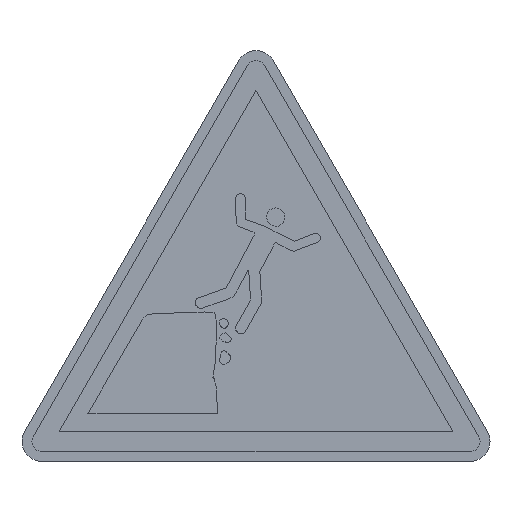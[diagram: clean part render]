
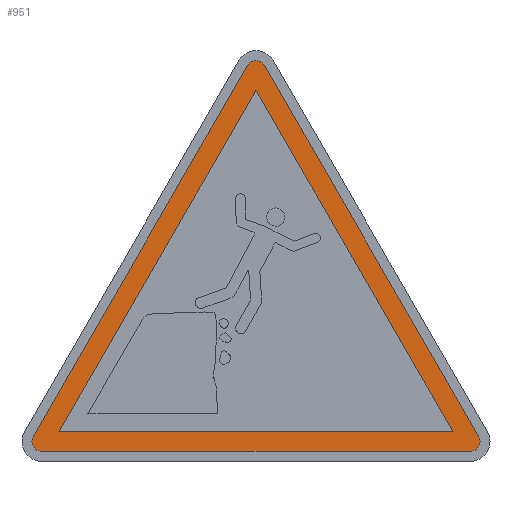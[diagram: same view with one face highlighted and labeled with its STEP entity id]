
A CAD part, top view. The second image highlights one B-rep face of the part: STEP entity #951.
In plain terms, the highlighted planar face has unit normal (0, 0, 1).
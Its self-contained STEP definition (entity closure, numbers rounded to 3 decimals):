
#17 = EDGE_CURVE ( 'NONE', #4892, #2384, #2519, .T. ) ;
#30 = CIRCLE ( 'NONE', #301, 1. ) ;
#113 = ORIENTED_EDGE ( 'NONE', *, *, #2850, .F. ) ;
#161 = VERTEX_POINT ( 'NONE', #5000 ) ;
#301 = AXIS2_PLACEMENT_3D ( 'NONE', #1368, #1045, #2253 ) ;
#304 = CARTESIAN_POINT ( 'NONE',  ( 22.402, 2.5, 0.22 ) ) ;
#373 = CARTESIAN_POINT ( 'NONE',  ( -0.866, 39.801, 0.22 ) ) ;
#423 = LINE ( 'NONE', #373, #1034 ) ;
#446 = EDGE_CURVE ( 'NONE', #2110, #3950, #2453, .T. ) ;
#854 = AXIS2_PLACEMENT_3D ( 'NONE', #3190, #4425, #4026 ) ;
#888 = EDGE_CURVE ( 'NONE', #2384, #2166, #3691, .T. ) ;
#941 = EDGE_LOOP ( 'NONE', ( #2548, #5354, #2375, #3504, #2248, #3169 ) ) ;
#951 = ADVANCED_FACE ( 'NONE', ( #3320, #2780 ), #4029, .T. ) ;
#1026 = EDGE_CURVE ( 'NONE', #5061, #4892, #423, .T. ) ;
#1034 = VECTOR ( 'NONE', #3342, 1000. ) ;
#1041 = EDGE_LOOP ( 'NONE', ( #1096, #2632, #113 ) ) ;
#1045 = DIRECTION ( 'NONE',  ( 0., 0., 1. ) ) ;
#1096 = ORIENTED_EDGE ( 'NONE', *, *, #1413, .F. ) ;
#1117 = CARTESIAN_POINT ( 'NONE',  ( -21.536, 1., 0.22 ) ) ;
#1121 = CARTESIAN_POINT ( 'NONE',  ( 22.402, 2.5, 0.22 ) ) ;
#1141 = CARTESIAN_POINT ( 'NONE',  ( 0., 39.301, 0.22 ) ) ;
#1195 = DIRECTION ( 'NONE',  ( 1., 0., 0. ) ) ;
#1368 = CARTESIAN_POINT ( 'NONE',  ( 21.536, 2., 0.22 ) ) ;
#1413 = EDGE_CURVE ( 'NONE', #3950, #161, #2882, .T. ) ;
#1625 = CARTESIAN_POINT ( 'NONE',  ( 19.804, 3., 0.22 ) ) ;
#1640 = CARTESIAN_POINT ( 'NONE',  ( 0., 37.301, 0.22 ) ) ;
#2041 = DIRECTION ( 'NONE',  ( 0., 0., 1. ) ) ;
#2073 = CARTESIAN_POINT ( 'NONE',  ( -22.402, 2.5, 0.22 ) ) ;
#2110 = VERTEX_POINT ( 'NONE', #1640 ) ;
#2166 = VERTEX_POINT ( 'NONE', #3692 ) ;
#2212 = CIRCLE ( 'NONE', #4718, 1. ) ;
#2223 = VERTEX_POINT ( 'NONE', #304 ) ;
#2240 = DIRECTION ( 'NONE',  ( 0., 0., 1. ) ) ;
#2248 = ORIENTED_EDGE ( 'NONE', *, *, #3937, .T. ) ;
#2253 = DIRECTION ( 'NONE',  ( 1., 0., 0. ) ) ;
#2278 = VERTEX_POINT ( 'NONE', #5001 ) ;
#2280 = CARTESIAN_POINT ( 'NONE',  ( -19.804, 3., 0.22 ) ) ;
#2354 = LINE ( 'NONE', #1121, #5233 ) ;
#2375 = ORIENTED_EDGE ( 'NONE', *, *, #17, .T. ) ;
#2377 = CARTESIAN_POINT ( 'NONE',  ( -0.866, 39.801, 0.22 ) ) ;
#2384 = VERTEX_POINT ( 'NONE', #1117 ) ;
#2453 = LINE ( 'NONE', #4450, #3986 ) ;
#2519 = CIRCLE ( 'NONE', #854, 1. ) ;
#2538 = VECTOR ( 'NONE', #4964, 1000. ) ;
#2548 = ORIENTED_EDGE ( 'NONE', *, *, #3245, .T. ) ;
#2632 = ORIENTED_EDGE ( 'NONE', *, *, #446, .F. ) ;
#2671 = DIRECTION ( 'NONE',  ( 1., 0., 0. ) ) ;
#2780 = FACE_BOUND ( 'NONE', #1041, .T. ) ;
#2850 = EDGE_CURVE ( 'NONE', #161, #2110, #3698, .T. ) ;
#2882 = LINE ( 'NONE', #4529, #2538 ) ;
#3169 = ORIENTED_EDGE ( 'NONE', *, *, #4831, .T. ) ;
#3190 = CARTESIAN_POINT ( 'NONE',  ( -21.536, 2., 0.22 ) ) ;
#3245 = EDGE_CURVE ( 'NONE', #2278, #5061, #2212, .T. ) ;
#3320 = FACE_OUTER_BOUND ( 'NONE', #941, .T. ) ;
#3342 = DIRECTION ( 'NONE',  ( -0.5, -0.866, 0. ) ) ;
#3367 = VECTOR ( 'NONE', #1195, 1000. ) ;
#3389 = DIRECTION ( 'NONE',  ( -0.5, 0.866, 0. ) ) ;
#3504 = ORIENTED_EDGE ( 'NONE', *, *, #888, .T. ) ;
#3691 = LINE ( 'NONE', #4535, #3367 ) ;
#3692 = CARTESIAN_POINT ( 'NONE',  ( 21.536, 1., 0.22 ) ) ;
#3698 = LINE ( 'NONE', #1625, #4357 ) ;
#3937 = EDGE_CURVE ( 'NONE', #2166, #2223, #30, .T. ) ;
#3950 = VERTEX_POINT ( 'NONE', #2280 ) ;
#3986 = VECTOR ( 'NONE', #5273, 1000. ) ;
#4026 = DIRECTION ( 'NONE',  ( 1., 0., 0. ) ) ;
#4029 = PLANE ( 'NONE',  #4281 ) ;
#4281 = AXIS2_PLACEMENT_3D ( 'NONE', #1141, #2041, #5358 ) ;
#4357 = VECTOR ( 'NONE', #3389, 1000. ) ;
#4425 = DIRECTION ( 'NONE',  ( 0., 0., 1. ) ) ;
#4450 = CARTESIAN_POINT ( 'NONE',  ( 0., 37.301, 0.22 ) ) ;
#4529 = CARTESIAN_POINT ( 'NONE',  ( -19.804, 3., 0.22 ) ) ;
#4535 = CARTESIAN_POINT ( 'NONE',  ( -21.536, 1., 0.22 ) ) ;
#4646 = CARTESIAN_POINT ( 'NONE',  ( 0., 39.301, 0.22 ) ) ;
#4718 = AXIS2_PLACEMENT_3D ( 'NONE', #4646, #2240, #2671 ) ;
#4831 = EDGE_CURVE ( 'NONE', #2223, #2278, #2354, .T. ) ;
#4863 = DIRECTION ( 'NONE',  ( -0.5, 0.866, 0. ) ) ;
#4892 = VERTEX_POINT ( 'NONE', #2073 ) ;
#4964 = DIRECTION ( 'NONE',  ( 1., 0., 0. ) ) ;
#5000 = CARTESIAN_POINT ( 'NONE',  ( 19.804, 3., 0.22 ) ) ;
#5001 = CARTESIAN_POINT ( 'NONE',  ( 0.866, 39.801, 0.22 ) ) ;
#5061 = VERTEX_POINT ( 'NONE', #2377 ) ;
#5233 = VECTOR ( 'NONE', #4863, 1000. ) ;
#5273 = DIRECTION ( 'NONE',  ( -0.5, -0.866, 0. ) ) ;
#5354 = ORIENTED_EDGE ( 'NONE', *, *, #1026, .T. ) ;
#5358 = DIRECTION ( 'NONE',  ( 1., 0., 0. ) ) ;
